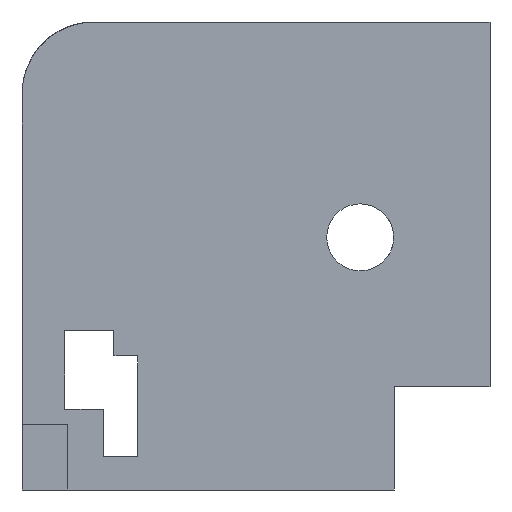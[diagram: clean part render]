
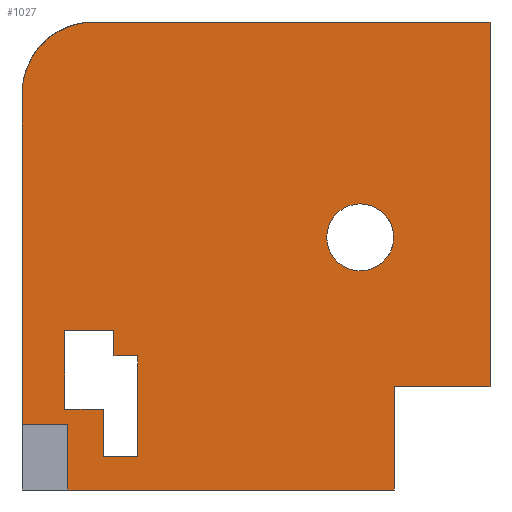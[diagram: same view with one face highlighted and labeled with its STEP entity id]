
A CAD part, front view. The second image highlights one B-rep face of the part: STEP entity #1027.
In plain terms, the highlighted planar face has unit normal (0, -1, 0).
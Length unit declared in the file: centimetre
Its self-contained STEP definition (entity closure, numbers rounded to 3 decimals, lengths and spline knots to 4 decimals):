
#3 = CIRCLE ( 'NONE', #1432, 71.6096 ) ;
#12 = ORIENTED_EDGE ( 'NONE', *, *, #1219, .T. ) ;
#15 = LINE ( 'NONE', #879, #289 ) ;
#51 = DIRECTION ( 'NONE',  ( 0., 0., 1. ) ) ;
#53 = LINE ( 'NONE', #181, #861 ) ;
#59 = EDGE_CURVE ( 'NONE', #403, #317, #53, .T. ) ;
#62 = CARTESIAN_POINT ( 'NONE',  ( 795.0137, 0., 0. ) ) ;
#78 = ORIENTED_EDGE ( 'NONE', *, *, #1175, .T. ) ;
#84 = CIRCLE ( 'NONE', #1232, 71.6096 ) ;
#92 = VERTEX_POINT ( 'NONE', #919 ) ;
#94 = CARTESIAN_POINT ( 'NONE',  ( 173.7926, 0., 71.5479 ) ) ;
#103 = ORIENTED_EDGE ( 'NONE', *, *, #639, .F. ) ;
#111 = VERTEX_POINT ( 'NONE', #94 ) ;
#120 = EDGE_LOOP ( 'NONE', ( #1523, #1342, #790, #1057, #371, #1018, #103, #1275, #1314 ) ) ;
#147 = LINE ( 'NONE', #178, #548 ) ;
#171 = PLANE ( 'NONE',  #1260 ) ;
#178 = CARTESIAN_POINT ( 'NONE',  ( 0., 0., 139.8108 ) ) ;
#179 = VERTEX_POINT ( 'NONE', #1084 ) ;
#181 = CARTESIAN_POINT ( 'NONE',  ( 173.7926, 0., 286.4069 ) ) ;
#186 = VECTOR ( 'NONE', #1070, 100. ) ;
#218 = DIRECTION ( 'NONE',  ( 0., 0., 1. ) ) ;
#227 = LINE ( 'NONE', #351, #1358 ) ;
#263 = CARTESIAN_POINT ( 'NONE',  ( 153.7263, 0., 846.2737 ) ) ;
#272 = CARTESIAN_POINT ( 'NONE',  ( 0., 0., 0. ) ) ;
#289 = VECTOR ( 'NONE', #763, 100. ) ;
#317 = VERTEX_POINT ( 'NONE', #1578 ) ;
#342 = VECTOR ( 'NONE', #1524, 100. ) ;
#346 = ORIENTED_EDGE ( 'NONE', *, *, #1202, .T. ) ;
#351 = CARTESIAN_POINT ( 'NONE',  ( 1000., 0., 1000. ) ) ;
#357 = LINE ( 'NONE', #1203, #398 ) ;
#367 = VECTOR ( 'NONE', #1230, 100. ) ;
#371 = ORIENTED_EDGE ( 'NONE', *, *, #945, .F. ) ;
#379 = VERTEX_POINT ( 'NONE', #998 ) ;
#385 = VERTEX_POINT ( 'NONE', #418 ) ;
#396 = DIRECTION ( 'NONE',  ( 0., 0., 1. ) ) ;
#398 = VECTOR ( 'NONE', #740, 100. ) ;
#403 = VERTEX_POINT ( 'NONE', #1267 ) ;
#415 = DIRECTION ( 'NONE',  ( 0., 0., 1. ) ) ;
#418 = CARTESIAN_POINT ( 'NONE',  ( 153.7263, 0., 1000. ) ) ;
#421 = FACE_OUTER_BOUND ( 'NONE', #120, .T. ) ;
#430 = CARTESIAN_POINT ( 'NONE',  ( 91.368, 0., 172.4306 ) ) ;
#447 = LINE ( 'NONE', #586, #186 ) ;
#449 = VERTEX_POINT ( 'NONE', #636 ) ;
#461 = EDGE_CURVE ( 'NONE', #949, #379, #777, .T. ) ;
#501 = EDGE_CURVE ( 'NONE', #581, #111, #708, .T. ) ;
#516 = CARTESIAN_POINT ( 'NONE',  ( 91.368, 0., 340.5633 ) ) ;
#543 = DIRECTION ( 'NONE',  ( -1., 0., 0. ) ) ;
#548 = VECTOR ( 'NONE', #638, 100. ) ;
#567 = EDGE_CURVE ( 'NONE', #379, #317, #447, .T. ) ;
#568 = CARTESIAN_POINT ( 'NONE',  ( 173.7926, 0., 71.5479 ) ) ;
#581 = VERTEX_POINT ( 'NONE', #1532 ) ;
#586 = CARTESIAN_POINT ( 'NONE',  ( 196.4822, 0., 172.4306 ) ) ;
#600 = CARTESIAN_POINT ( 'NONE',  ( 97.7123, 0., 139.8108 ) ) ;
#609 = CARTESIAN_POINT ( 'NONE',  ( 722.7331, 0., 611.3471 ) ) ;
#620 = VERTEX_POINT ( 'NONE', #1094 ) ;
#636 = CARTESIAN_POINT ( 'NONE',  ( 795.0137, 0., 221.0679 ) ) ;
#638 = DIRECTION ( 'NONE',  ( -1., 0., 0. ) ) ;
#639 = EDGE_CURVE ( 'NONE', #1473, #179, #227, .T. ) ;
#648 = CARTESIAN_POINT ( 'NONE',  ( 97.7123, 0., 0. ) ) ;
#649 = VECTOR ( 'NONE', #921, 100. ) ;
#651 = AXIS2_PLACEMENT_3D ( 'NONE', #263, #1486, #396 ) ;
#665 = LINE ( 'NONE', #782, #1435 ) ;
#676 = VECTOR ( 'NONE', #943, 100. ) ;
#689 = DIRECTION ( 'NONE',  ( 0., 0., -1. ) ) ;
#708 = LINE ( 'NONE', #568, #928 ) ;
#740 = DIRECTION ( 'NONE',  ( 0., 0., -1. ) ) ;
#743 = ORIENTED_EDGE ( 'NONE', *, *, #567, .T. ) ;
#762 = EDGE_CURVE ( 'NONE', #111, #1424, #1522, .T. ) ;
#763 = DIRECTION ( 'NONE',  ( 1., 0., 0. ) ) ;
#770 = DIRECTION ( 'NONE',  ( 1., 0., 0. ) ) ;
#777 = LINE ( 'NONE', #1254, #649 ) ;
#778 = DIRECTION ( 'NONE',  ( 0., 1., 0. ) ) ;
#782 = CARTESIAN_POINT ( 'NONE',  ( 0., 0., 1000. ) ) ;
#790 = ORIENTED_EDGE ( 'NONE', *, *, #1227, .F. ) ;
#795 = CARTESIAN_POINT ( 'NONE',  ( 0., 0., 139.8108 ) ) ;
#802 = CARTESIAN_POINT ( 'NONE',  ( 173.7926, 0., 71.5479 ) ) ;
#838 = EDGE_CURVE ( 'NONE', #981, #853, #3, .T. ) ;
#851 = DIRECTION ( 'NONE',  ( 0., 0., -1. ) ) ;
#853 = VERTEX_POINT ( 'NONE', #609 ) ;
#861 = VECTOR ( 'NONE', #543, 100. ) ;
#879 = CARTESIAN_POINT ( 'NONE',  ( 795.0137, 0., 221.0679 ) ) ;
#887 = CARTESIAN_POINT ( 'NONE',  ( 722.7331, 0., 468.128 ) ) ;
#897 = DIRECTION ( 'NONE',  ( 0., 0., 1. ) ) ;
#903 = LINE ( 'NONE', #648, #906 ) ;
#906 = VECTOR ( 'NONE', #897, 100. ) ;
#912 = LINE ( 'NONE', #1004, #953 ) ;
#919 = CARTESIAN_POINT ( 'NONE',  ( 97.7123, 0., 0. ) ) ;
#921 = DIRECTION ( 'NONE',  ( 1., 0., 0. ) ) ;
#924 = LINE ( 'NONE', #1074, #1140 ) ;
#928 = VECTOR ( 'NONE', #689, 100. ) ;
#935 = ORIENTED_EDGE ( 'NONE', *, *, #838, .T. ) ;
#943 = DIRECTION ( 'NONE',  ( 1., 0., 0. ) ) ;
#945 = EDGE_CURVE ( 'NONE', #449, #1171, #991, .T. ) ;
#949 = VERTEX_POINT ( 'NONE', #516 ) ;
#953 = VECTOR ( 'NONE', #51, 100. ) ;
#957 = EDGE_CURVE ( 'NONE', #449, #179, #15, .T. ) ;
#974 = EDGE_CURVE ( 'NONE', #385, #620, #1056, .T. ) ;
#981 = VERTEX_POINT ( 'NONE', #887 ) ;
#985 = EDGE_CURVE ( 'NONE', #92, #1171, #1367, .T. ) ;
#991 = LINE ( 'NONE', #1125, #367 ) ;
#993 = CARTESIAN_POINT ( 'NONE',  ( 91.368, 0., 172.4306 ) ) ;
#998 = CARTESIAN_POINT ( 'NONE',  ( 196.4822, 0., 340.5633 ) ) ;
#1004 = CARTESIAN_POINT ( 'NONE',  ( 91.368, 0., 172.4306 ) ) ;
#1010 = CARTESIAN_POINT ( 'NONE',  ( 0., 0., 1000. ) ) ;
#1018 = ORIENTED_EDGE ( 'NONE', *, *, #957, .T. ) ;
#1027 = ADVANCED_FACE ( 'NONE', ( #1513, #1268, #421 ), #171, .F. ) ;
#1028 = DIRECTION ( 'NONE',  ( 1., 0., 0. ) ) ;
#1036 = VERTEX_POINT ( 'NONE', #795 ) ;
#1050 = CARTESIAN_POINT ( 'NONE',  ( 247.2867, 0., 71.5479 ) ) ;
#1054 = ORIENTED_EDGE ( 'NONE', *, *, #762, .F. ) ;
#1056 = CIRCLE ( 'NONE', #651, 153.7263 ) ;
#1057 = ORIENTED_EDGE ( 'NONE', *, *, #985, .T. ) ;
#1070 = DIRECTION ( 'NONE',  ( 0., 0., -1. ) ) ;
#1073 = DIRECTION ( 'NONE',  ( 0., 1., 0. ) ) ;
#1074 = CARTESIAN_POINT ( 'NONE',  ( 247.2867, 0., 71.5479 ) ) ;
#1084 = CARTESIAN_POINT ( 'NONE',  ( 1000., 0., 221.0679 ) ) ;
#1085 = EDGE_CURVE ( 'NONE', #1554, #1036, #147, .T. ) ;
#1091 = CARTESIAN_POINT ( 'NONE',  ( 1000., 0., 1000. ) ) ;
#1094 = CARTESIAN_POINT ( 'NONE',  ( 0., 0., 846.2737 ) ) ;
#1125 = CARTESIAN_POINT ( 'NONE',  ( 795.0137, 0., 221.0679 ) ) ;
#1134 = EDGE_LOOP ( 'NONE', ( #78, #935 ) ) ;
#1140 = VECTOR ( 'NONE', #218, 100. ) ;
#1156 = EDGE_CURVE ( 'NONE', #385, #1473, #665, .T. ) ;
#1171 = VERTEX_POINT ( 'NONE', #62 ) ;
#1175 = EDGE_CURVE ( 'NONE', #853, #981, #84, .T. ) ;
#1180 = EDGE_LOOP ( 'NONE', ( #1054, #1257, #346, #12, #1184, #743, #1404, #1426 ) ) ;
#1184 = ORIENTED_EDGE ( 'NONE', *, *, #461, .T. ) ;
#1185 = VECTOR ( 'NONE', #770, 100. ) ;
#1202 = EDGE_CURVE ( 'NONE', #581, #1481, #1510, .T. ) ;
#1203 = CARTESIAN_POINT ( 'NONE',  ( 0., 0., 1000. ) ) ;
#1219 = EDGE_CURVE ( 'NONE', #1481, #949, #912, .T. ) ;
#1227 = EDGE_CURVE ( 'NONE', #92, #1554, #903, .T. ) ;
#1230 = DIRECTION ( 'NONE',  ( 0., 0., -1. ) ) ;
#1232 = AXIS2_PLACEMENT_3D ( 'NONE', #1270, #1261, #415 ) ;
#1240 = DIRECTION ( 'NONE',  ( 0., 0., 1. ) ) ;
#1254 = CARTESIAN_POINT ( 'NONE',  ( 91.368, 0., 340.5633 ) ) ;
#1257 = ORIENTED_EDGE ( 'NONE', *, *, #501, .F. ) ;
#1260 = AXIS2_PLACEMENT_3D ( 'NONE', #1010, #778, #1240 ) ;
#1261 = DIRECTION ( 'NONE',  ( 0., 1., 0. ) ) ;
#1267 = CARTESIAN_POINT ( 'NONE',  ( 247.2867, 0., 286.4069 ) ) ;
#1268 = FACE_BOUND ( 'NONE', #1180, .T. ) ;
#1270 = CARTESIAN_POINT ( 'NONE',  ( 722.7331, 0., 539.7375 ) ) ;
#1275 = ORIENTED_EDGE ( 'NONE', *, *, #1156, .F. ) ;
#1314 = ORIENTED_EDGE ( 'NONE', *, *, #974, .T. ) ;
#1322 = CARTESIAN_POINT ( 'NONE',  ( 722.7331, 0., 539.7375 ) ) ;
#1342 = ORIENTED_EDGE ( 'NONE', *, *, #1085, .F. ) ;
#1358 = VECTOR ( 'NONE', #851, 100. ) ;
#1367 = LINE ( 'NONE', #272, #1185 ) ;
#1404 = ORIENTED_EDGE ( 'NONE', *, *, #59, .F. ) ;
#1412 = EDGE_CURVE ( 'NONE', #1424, #403, #924, .T. ) ;
#1424 = VERTEX_POINT ( 'NONE', #1050 ) ;
#1426 = ORIENTED_EDGE ( 'NONE', *, *, #1412, .F. ) ;
#1432 = AXIS2_PLACEMENT_3D ( 'NONE', #1322, #1073, #1561 ) ;
#1435 = VECTOR ( 'NONE', #1028, 100. ) ;
#1473 = VERTEX_POINT ( 'NONE', #1091 ) ;
#1481 = VERTEX_POINT ( 'NONE', #993 ) ;
#1486 = DIRECTION ( 'NONE',  ( 0., -1., 0. ) ) ;
#1494 = EDGE_CURVE ( 'NONE', #620, #1036, #357, .T. ) ;
#1510 = LINE ( 'NONE', #430, #342 ) ;
#1513 = FACE_BOUND ( 'NONE', #1134, .T. ) ;
#1522 = LINE ( 'NONE', #802, #676 ) ;
#1523 = ORIENTED_EDGE ( 'NONE', *, *, #1494, .T. ) ;
#1524 = DIRECTION ( 'NONE',  ( -1., 0., 0. ) ) ;
#1532 = CARTESIAN_POINT ( 'NONE',  ( 173.7926, 0., 172.4306 ) ) ;
#1554 = VERTEX_POINT ( 'NONE', #600 ) ;
#1561 = DIRECTION ( 'NONE',  ( 0., 0., 1. ) ) ;
#1578 = CARTESIAN_POINT ( 'NONE',  ( 196.4822, 0., 286.4069 ) ) ;
